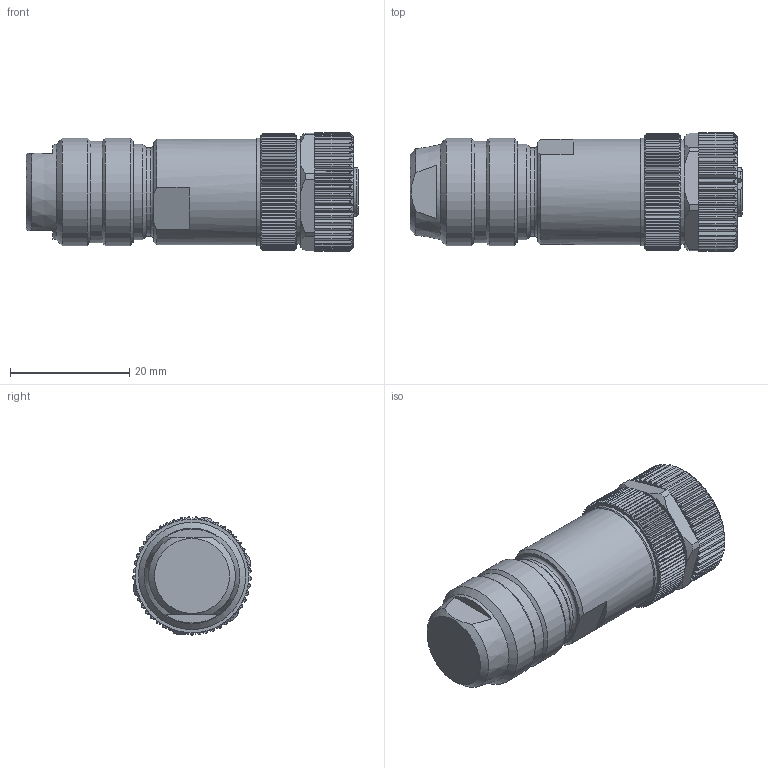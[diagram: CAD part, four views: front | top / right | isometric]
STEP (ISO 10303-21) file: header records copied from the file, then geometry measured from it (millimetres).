
FILE_DESCRIPTION(/* description */ ('STEP AP203'),/* implementation_level */ '2;1');
FILE_NAME(/* name */ 'E12354',/* time_stamp */ '2023-06-20T13:25:44+02:00',/* author */ ('License CC BY-ND 4.0'),/* organization */ ('CADENAS'),/* preprocessor_version */ 'ST-DEVELOPER v19.3',/* originating_system */ 'PARTsolutions',/* authorisation */ ' ');
FILE_SCHEMA (('CONFIG_CONTROL_DESIGN'));
Length unit declared in the file: millimetre
Products named in the file (1): E12354
Bounding box: 55.7 x 19.89 x 19.88 mm (x, y, z)
Volume: 13201.3 mm3; surface area: 4626.8 mm2
Topology: 1 solids, 1 shells, 782 faces, 1886 edges, 1113 vertices
Faces by surface type: plane 357, cylinder 211, cone 210, torus 4
Full cylindrical faces by diameter (mm): 10.917 x1, 14.8 x1, 16 x1, 17 x1, 17.6 x1, 17.7 x1, 18 x3
Entity records: 28336 total; most frequent: CARTESIAN_POINT 5688, ORIENTED_EDGE 3724, DIRECTION 3372, EDGE_CURVE 1862, AXIS2_PLACEMENT_3D 1337, VERTEX_POINT 1109, EDGE_LOOP 809, FACE_BOUND 809
